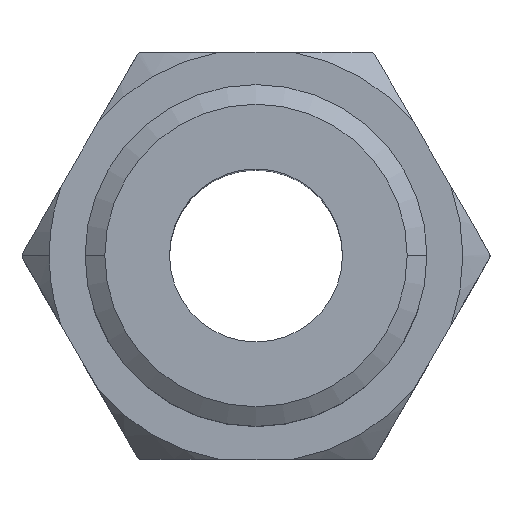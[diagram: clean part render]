
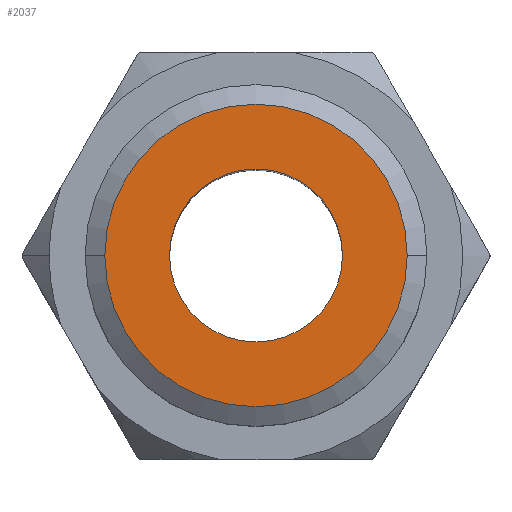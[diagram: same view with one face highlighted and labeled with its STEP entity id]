
A CAD part, top view. The second image highlights one B-rep face of the part: STEP entity #2037.
In plain terms, the highlighted planar face has unit normal (0, 0, 1).
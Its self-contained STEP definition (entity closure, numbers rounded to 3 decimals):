
#100 = ORIENTED_EDGE ( 'NONE', *, *, #1407, .F. ) ;
#107 = CARTESIAN_POINT ( 'NONE',  ( 0., 0., 0. ) ) ;
#210 = CARTESIAN_POINT ( 'NONE',  ( -4.46, 0., 0. ) ) ;
#215 = ORIENTED_EDGE ( 'NONE', *, *, #1923, .F. ) ;
#236 = DIRECTION ( 'NONE',  ( -1., 0., 0. ) ) ;
#242 = PLANE ( 'NONE',  #1563 ) ;
#308 = AXIS2_PLACEMENT_3D ( 'NONE', #107, #2366, #2174 ) ;
#313 = ORIENTED_EDGE ( 'NONE', *, *, #733, .F. ) ;
#335 = CIRCLE ( 'NONE', #787, 4.46 ) ;
#478 = CARTESIAN_POINT ( 'NONE',  ( -2.55, 0., 0. ) ) ;
#601 = DIRECTION ( 'NONE',  ( 0., 0., -1. ) ) ;
#624 = CIRCLE ( 'NONE', #308, 2.55 ) ;
#680 = AXIS2_PLACEMENT_3D ( 'NONE', #1355, #601, #236 ) ;
#684 = DIRECTION ( 'NONE',  ( -1., 0., 0. ) ) ;
#709 = EDGE_LOOP ( 'NONE', ( #215, #100 ) ) ;
#733 = EDGE_CURVE ( 'NONE', #822, #1572, #335, .T. ) ;
#787 = AXIS2_PLACEMENT_3D ( 'NONE', #874, #2012, #684 ) ;
#822 = VERTEX_POINT ( 'NONE', #835 ) ;
#835 = CARTESIAN_POINT ( 'NONE',  ( 4.46, 0., 0. ) ) ;
#874 = CARTESIAN_POINT ( 'NONE',  ( 0., 0., 0. ) ) ;
#885 = FACE_OUTER_BOUND ( 'NONE', #1266, .T. ) ;
#985 = DIRECTION ( 'NONE',  ( 0., 0., -1. ) ) ;
#1102 = CARTESIAN_POINT ( 'NONE',  ( 0., 0., 0. ) ) ;
#1266 = EDGE_LOOP ( 'NONE', ( #2327, #313 ) ) ;
#1270 = VERTEX_POINT ( 'NONE', #478 ) ;
#1281 = DIRECTION ( 'NONE',  ( 1., 0., 0. ) ) ;
#1355 = CARTESIAN_POINT ( 'NONE',  ( 0., 0., 0. ) ) ;
#1365 = FACE_BOUND ( 'NONE', #709, .T. ) ;
#1407 = EDGE_CURVE ( 'NONE', #1270, #2053, #1922, .T. ) ;
#1563 = AXIS2_PLACEMENT_3D ( 'NONE', #2311, #985, #1741 ) ;
#1572 = VERTEX_POINT ( 'NONE', #210 ) ;
#1741 = DIRECTION ( 'NONE',  ( -1., 0., 0. ) ) ;
#1922 = CIRCLE ( 'NONE', #2219, 2.55 ) ;
#1923 = EDGE_CURVE ( 'NONE', #2053, #1270, #624, .T. ) ;
#2012 = DIRECTION ( 'NONE',  ( 0., 0., -1. ) ) ;
#2037 = ADVANCED_FACE ( 'NONE', ( #1365, #885 ), #242, .F. ) ;
#2039 = EDGE_CURVE ( 'NONE', #1572, #822, #2255, .T. ) ;
#2053 = VERTEX_POINT ( 'NONE', #2090 ) ;
#2090 = CARTESIAN_POINT ( 'NONE',  ( 2.55, 0., 0. ) ) ;
#2174 = DIRECTION ( 'NONE',  ( 1., 0., 0. ) ) ;
#2219 = AXIS2_PLACEMENT_3D ( 'NONE', #1102, #2428, #1281 ) ;
#2255 = CIRCLE ( 'NONE', #680, 4.46 ) ;
#2311 = CARTESIAN_POINT ( 'NONE',  ( 4.75, 0., 0. ) ) ;
#2327 = ORIENTED_EDGE ( 'NONE', *, *, #2039, .F. ) ;
#2366 = DIRECTION ( 'NONE',  ( 0., 0., 1. ) ) ;
#2428 = DIRECTION ( 'NONE',  ( 0., 0., 1. ) ) ;
